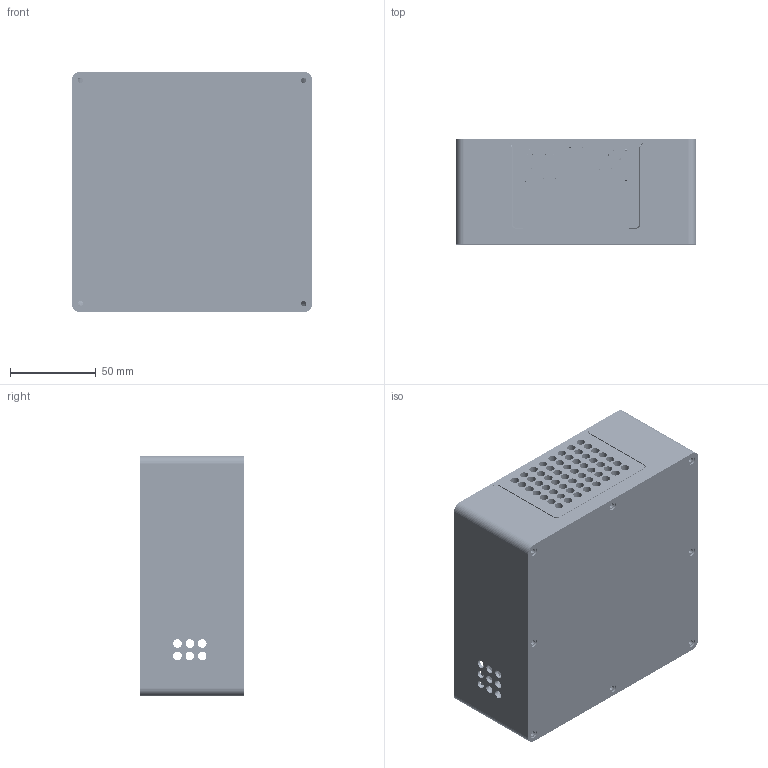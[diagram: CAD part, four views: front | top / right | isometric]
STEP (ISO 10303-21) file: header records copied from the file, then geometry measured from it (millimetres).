
FILE_DESCRIPTION(/* description */ (''),/* implementation_level */ '2;1');
FILE_NAME(/* name */ 'G:/PCB apprendre/CAO/Box Domotique Step.step',/* time_stamp */ '2022-06-17T10:02:16+02:00',/* author */ (''),/* organization */ (''),/* preprocessor_version */ 'ST-DEVELOPER v18.1',/* originating_system */ 'Autodesk Translation Framework v10.10.0.1391',/* authorisation */ '');
FILE_SCHEMA (('AUTOMOTIVE_DESIGN { 1 0 10303 214 3 1 1 }'));
Products named in the file (25): Box Domotique V2 (v52~recovered); Raspberry Pi 4 Model B; PCB, RPi4ModelB; Broadcom BCM2711B0 CPU, RPi4ModelB; 2.54 mm DUPONT MALE PIN HEADER, POE, 2X2, RPi4ModelB; 2.54 mm DUPONT MALE PIN HEADER, IO, 2X20, RPi4ModelB; Camera Connector, RPi4ModelB; Microphone Plug, RPi4ModelB; Display Connector, RPi4ModelB; Gigabit Ethernet Port, RPi4ModelB; Female Micro HDMI Connector, RPi4ModelB; Female USB Type C Connector, RPi4ModelB; 2X USB3.0 PORTS, RPi4ModelB; 91D77 D9WHV 778K, 4 GB LPDDR4 SDRAM, RPi4ModelB; Cypress CYW43455 Wireless Module Cover, RPi4ModelB; SD Card Slot, RPi4ModelB; VIA VL805 PCIe USB 3.0 controller, RPi4ModelB; 2X USB2.0 PORTS, RPi4ModelB; Broadcom BCM54213PE Gigabit Ethernet Transceiver, RPi4ModelB; MxL7704 Universal PMIC, RPi4ModelB; Boitier; PCB ; Ventilo; Support LED; Plexi
Assembly tree (25 placements, depth 3):
  Box Domotique V2 (v52~recovered)
    Raspberry Pi 4 Model B
      PCB, RPi4ModelB
      Broadcom BCM2711B0 CPU, RPi4ModelB
      2.54 mm DUPONT MALE PIN HEADER, POE, 2X2, RPi4ModelB
      2.54 mm DUPONT MALE PIN HEADER, IO, 2X20, RPi4ModelB
      Camera Connector, RPi4ModelB
      Microphone Plug, RPi4ModelB
      Display Connector, RPi4ModelB
      Gigabit Ethernet Port, RPi4ModelB
      Female Micro HDMI Connector, RPi4ModelB  x2
      Female USB Type C Connector, RPi4ModelB
      2X USB3.0 PORTS, RPi4ModelB
      91D77 D9WHV 778K, 4 GB LPDDR4 SDRAM, RPi4ModelB
      Cypress CYW43455 Wireless Module Cover, RPi4ModelB
      SD Card Slot, RPi4ModelB
      VIA VL805 PCIe USB 3.0 controller, RPi4ModelB
      2X USB2.0 PORTS, RPi4ModelB
      Broadcom BCM54213PE Gigabit Ethernet Transceiver, RPi4ModelB
      MxL7704 Universal PMIC, RPi4ModelB
    Boitier
    PCB 
    Ventilo
    Support LED
    Plexi
Bounding box: 140 x 60.95 x 140 mm (x, y, z)
Volume: 267875.5 mm3; surface area: 252914.2 mm2
Topology: 115 solids, 115 shells, 10923 faces, 30764 edges, 20118 vertices
Faces by surface type: plane 8130, cylinder 2261, bspline 439, cone 49, torus 32, sphere 12
Full cylindrical faces by diameter (mm): 0.95 x2, 1 x47, 2.7 x4, 3 x8, 3.2 x12, 3.6 x1, 5 x104, 5.5 x4, 6 x13, 8 x4, 10 x3, 11.2 x8, 12 x4
Entity records: 346240 total; most frequent: CARTESIAN_POINT 84536, ORIENTED_EDGE 55402, DIRECTION 49724, EDGE_CURVE 27701, LINE 22598, VECTOR 22598, VERTEX_POINT 18098, AXIS2_PLACEMENT_3D 13563
